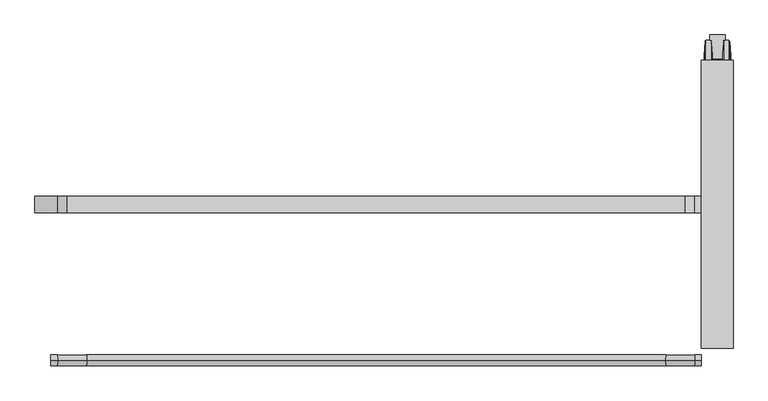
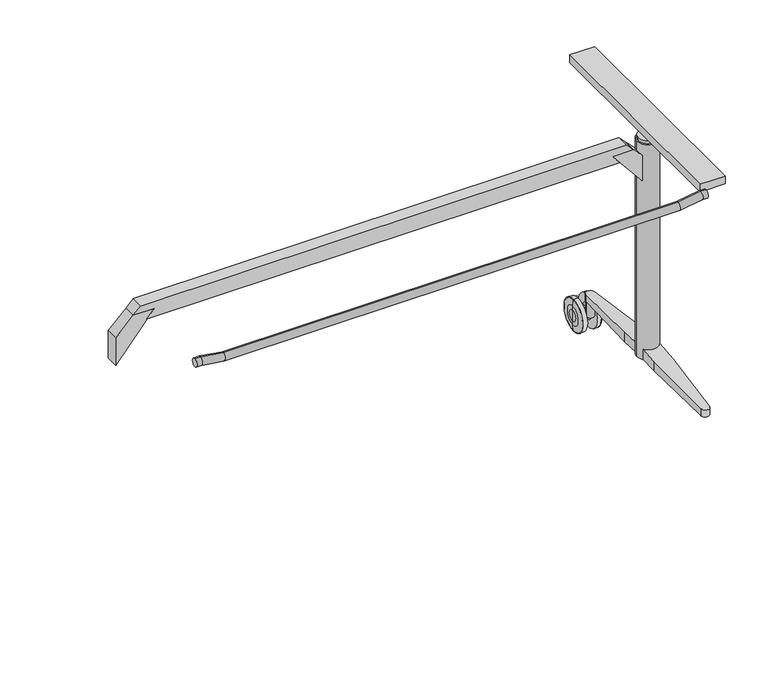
"""IFC4 building model written with IfcOpenShell, lengths in millimetres: furniture geometry, Table_Foldable_Wilkhahn_TimetableLift_Whiteboard : 1500w x 750d (615/10)."""

from ifc_helpers import new_model, si_unit, point, frame, frame_2d, origin, place, context, project, spatial, polyline, circle_curve, ellipse_curve, trimmed, segment, composite_curve, outline, extrude, source, transform, mapped, element, save
from ifc_brep_helpers import plane_surface, cylinder_surface, revolved_surface, advanced_brep


def furniture_e5408bf0(model_context):
    return source(origin(), model_context, "Body", "SolidModel", [
        advanced_brep(
        [(620.4530674, 395.9511544, 26.9613134), (620.4530674, 395.9511544, 53.0387194), (620.4530674, 395.9511544, 40.0000164), (622.5845915, 395.9511544, 0.8972162), (622.5845915, 395.9511544, 79.1028166), (621.0121742, 395.9511544, 63.8876748), (621.0121742, 395.9511544, 16.1123581), (633.5439759, 395.9511544, 1.43e-05), (633.5439759, 395.9511544, 80.0000185), (623.5792938, 395.9511544, 80.0000185), (623.5792938, 395.9511544, 1.43e-05), (635.4530966, 395.9511544, 20.9999281), (635.4530966, 395.9511544, 59.0001048), (635.4530966, 395.9511544, 32.3463502), (635.4530966, 395.9511544, 47.6536826), (655.3531174, 395.9511544, 32.3463502), (655.3531174, 395.9511544, 47.6536826), (655.3531174, 395.9511544, 20.9999281), (655.3531174, 395.9511544, 59.0001048), (657.2622381, 395.9511544, 1.43e-05), (657.2622381, 395.9511544, 80.0000185), (666.3249398, 395.9511544, 1.43e-05), (666.3249398, 395.9511544, 80.0000185), (669.7942336, 395.9511544, 16.1142331), (669.7942336, 395.9511544, 63.8857997), (668.3143443, 395.9511544, 78.2056147), (668.3143443, 395.9511544, 1.7944182), (670.3531466, 395.9511544, 40.0000164), (670.3531466, 395.9511544, 53.0406045), (670.3531466, 395.9511544, 26.9594284)],
        [
            (0, 1, circle_curve(frame((620.4530674, 395.9511544, 40.0000164), z_axis=(-1.0, 0.0, 0.0), x_axis=(0.0, 0.0, 1.0)), 13.038703)),
            (1, 2),
            (2, 0),
            (1, 0, circle_curve(frame((620.4530674, 395.9511544, 40.0000164), z_axis=(-1.0, 0.0, 0.0), x_axis=(0.0, 0.0, 1.0)), 13.038703)),
            (3, 4, circle_curve(frame((622.5845915, 395.9511544, 40.0000164), z_axis=(-1.0, 0.0, 0.0), x_axis=(0.0, 0.0, 1.0)), 39.1028002)),
            (4, 5),
            (5, 6, circle_curve(frame((621.0121742, 395.9511544, 40.0000164), z_axis=(1.0, 0.0, 0.0), x_axis=(0.0, 0.0, 1.0)), 23.8876584)),
            (6, 3),
            (4, 3, circle_curve(frame((622.5845915, 395.9511544, 40.0000164), z_axis=(-1.0, 0.0, 0.0), x_axis=(0.0, 0.0, 1.0)), 39.1028002)),
            (6, 5, circle_curve(frame((621.0121742, 395.9511544, 40.0000164), z_axis=(1.0, 0.0, 0.0), x_axis=(0.0, 0.0, 1.0)), 23.8876584)),
            (7, 8, circle_curve(frame((633.5439759, 395.9511544, 40.0000164), z_axis=(-1.0, 0.0, 0.0), x_axis=(0.0, 0.0, 1.0)), 40.0000021)),
            (8, 9),
            (9, 10, circle_curve(frame((623.5792938, 395.9511544, 40.0000164), z_axis=(1.0, 0.0, 0.0), x_axis=(0.0, 0.0, 1.0)), 40.0000021)),
            (10, 7),
            (8, 7, circle_curve(frame((633.5439759, 395.9511544, 40.0000164), z_axis=(-1.0, 0.0, 0.0), x_axis=(0.0, 0.0, 1.0)), 40.0000021)),
            (10, 9, circle_curve(frame((623.5792938, 395.9511544, 40.0000164), z_axis=(1.0, 0.0, 0.0), x_axis=(0.0, 0.0, 1.0)), 40.0000021)),
            (11, 12, circle_curve(frame((635.4530966, 395.9511544, 40.0000164), z_axis=(-1.0, 0.0, 0.0), x_axis=(0.0, 0.0, 1.0)), 19.0000883)),
            (12, 8),
            (7, 11),
            (12, 11, circle_curve(frame((635.4530966, 395.9511544, 40.0000164), z_axis=(-1.0, 0.0, 0.0), x_axis=(0.0, 0.0, 1.0)), 19.0000883)),
            (13, 14, circle_curve(frame((635.4530966, 395.9511544, 40.0000164), z_axis=(-1.0, 0.0, 0.0), x_axis=(0.0, 0.0, 1.0)), 7.6536662)),
            (14, 12),
            (11, 13),
            (14, 13, circle_curve(frame((635.4530966, 395.9511544, 40.0000164), z_axis=(-1.0, 0.0, 0.0), x_axis=(0.0, 0.0, 1.0)), 7.6536662)),
            (15, 16, circle_curve(frame((655.3531174, 395.9511544, 40.0000164), z_axis=(-1.0, 0.0, 0.0), x_axis=(0.0, 0.0, 1.0)), 7.6536662)),
            (16, 14),
            (13, 15),
            (16, 15, circle_curve(frame((655.3531174, 395.9511544, 40.0000164), z_axis=(-1.0, 0.0, 0.0), x_axis=(0.0, 0.0, 1.0)), 7.6536662)),
            (17, 18, circle_curve(frame((655.3531174, 395.9511544, 40.0000164), z_axis=(-1.0, 0.0, 0.0), x_axis=(0.0, 0.0, 1.0)), 19.0000883)),
            (18, 16),
            (15, 17),
            (18, 17, circle_curve(frame((655.3531174, 395.9511544, 40.0000164), z_axis=(-1.0, 0.0, 0.0), x_axis=(0.0, 0.0, 1.0)), 19.0000883)),
            (19, 20, circle_curve(frame((657.2622381, 395.9511544, 40.0000164), z_axis=(-1.0, 0.0, 0.0), x_axis=(0.0, 0.0, 1.0)), 40.0000021)),
            (20, 18),
            (17, 19),
            (20, 19, circle_curve(frame((657.2622381, 395.9511544, 40.0000164), z_axis=(-1.0, 0.0, 0.0), x_axis=(0.0, 0.0, 1.0)), 40.0000021)),
            (21, 22, circle_curve(frame((666.3249398, 395.9511544, 40.0000164), z_axis=(-1.0, 0.0, 0.0), x_axis=(0.0, 0.0, 1.0)), 40.0000021)),
            (22, 20),
            (19, 21),
            (22, 21, circle_curve(frame((666.3249398, 395.9511544, 40.0000164), z_axis=(-1.0, 0.0, 0.0), x_axis=(0.0, 0.0, 1.0)), 40.0000021)),
            (23, 24, circle_curve(frame((669.7942336, 395.9511544, 40.0000164), z_axis=(-1.0, 0.0, 0.0), x_axis=(0.0, 0.0, 1.0)), 23.8857833)),
            (24, 25),
            (25, 26, circle_curve(frame((668.3143443, 395.9511544, 40.0000164), z_axis=(1.0, 0.0, 0.0), x_axis=(0.0, 0.0, 1.0)), 38.2055982)),
            (26, 23),
            (24, 23, circle_curve(frame((669.7942336, 395.9511544, 40.0000164), z_axis=(-1.0, 0.0, 0.0), x_axis=(0.0, 0.0, 1.0)), 23.8857833)),
            (26, 25, circle_curve(frame((668.3143443, 395.9511544, 40.0000164), z_axis=(1.0, 0.0, 0.0), x_axis=(0.0, 0.0, 1.0)), 38.2055982)),
            (27, 28),
            (28, 29, circle_curve(frame((670.3531466, 395.9511544, 40.0000164), z_axis=(1.0, 0.0, 0.0), x_axis=(0.0, 0.0, 1.0)), 13.0405881)),
            (29, 27),
            (29, 28, circle_curve(frame((670.3531466, 395.9511544, 40.0000164), z_axis=(1.0, 0.0, 0.0), x_axis=(0.0, 0.0, 1.0)), 13.0405881)),
            (5, 1, circle_curve(frame((725.9896451, 395.9511544, 53.0387194), z_axis=(0.0, -1.0, 0.0), x_axis=(-1.0, 0.0, 0.0)), 105.5365777)),
            (0, 6, circle_curve(frame((725.9896451, 395.9511544, 26.9613134), z_axis=(0.0, -1.0, 0.0), x_axis=(-1.0, 0.0, 0.0)), 105.5365777)),
            (9, 4, circle_curve(frame((623.5792938, 395.9511544, 79.0000185), z_axis=(0.0, -1.0, 0.0), x_axis=(-1.0, 0.0, 0.0)), 1.0)),
            (3, 10, circle_curve(frame((623.5792938, 395.9511544, 1.0000143), z_axis=(0.0, -1.0, 0.0), x_axis=(-1.0, 0.0, 0.0)), 1.0)),
            (25, 22, circle_curve(frame((666.3249398, 395.9511544, 78.0000185), z_axis=(0.0, -1.0, 0.0), x_axis=(-1.0, 0.0, 0.0)), 2.0)),
            (21, 26, circle_curve(frame((666.3249398, 395.9511544, 2.0000143), z_axis=(0.0, -1.0, 0.0), x_axis=(-1.0, 0.0, 0.0)), 2.0)),
            (28, 24, circle_curve(frame((564.8531466, 395.9511544, 53.0406045), z_axis=(0.0, -1.0, 0.0), x_axis=(-1.0, 0.0, 0.0)), 105.5)),
            (23, 29, circle_curve(frame((564.8531466, 395.9511544, 26.9594284), z_axis=(0.0, -1.0, 0.0), x_axis=(-1.0, 0.0, 0.0)), 105.5)),
        ],
        [
            plane_surface(frame((620.4530674, 395.9511544, 40.0000164), z_axis=(-1.0, 0.0, 0.0), x_axis=(0.0, 0.0, 1.0))),
            revolved_surface(polyline([(621.0121742, 395.9511544, 63.8876748), (622.5845915, 395.9511544, 79.1028166)]), (686.1531192, 395.9511544, 40.0000164), (1.0, 0.0, 0.0)),
            cylinder_surface(frame((686.1531192, 395.9511544, 40.0000164), z_axis=(1.0, 0.0, 0.0), x_axis=(0.0, 0.0, 1.0)), 40.0000021),
            revolved_surface(polyline([(633.5439759, 395.9511544, 80.0000185), (635.4530966, 395.9511544, 59.0001048)]), (686.1531192, 395.9511544, 40.0000164), (1.0, 0.0, 0.0)),
            plane_surface(frame((635.4530966, 395.9511544, 40.0000164), z_axis=(1.0, 0.0, 0.0), x_axis=(0.0, 0.0, 1.0))),
            cylinder_surface(frame((686.1531192, 395.9511544, 40.0000164), z_axis=(1.0, 0.0, 0.0), x_axis=(0.0, 0.0, 1.0)), 7.6536662),
            plane_surface(frame((655.3531174, 395.9511544, 40.0000164), z_axis=(-1.0, 0.0, 0.0), x_axis=(0.0, 0.0, 1.0))),
            revolved_surface(polyline([(655.3531174, 395.9511544, 59.0001048), (657.2622381, 395.9511544, 80.0000185)]), (686.1531192, 395.9511544, 40.0000164), (1.0, 0.0, 0.0)),
            revolved_surface(polyline([(668.3143443, 395.9511544, 78.2056147), (669.7942336, 395.9511544, 63.8857997)]), (686.1531192, 395.9511544, 40.0000164), (1.0, 0.0, 0.0)),
            plane_surface(frame((670.3531466, 395.9511544, 40.0000164), z_axis=(1.0, 0.0, 0.0), x_axis=(0.0, 0.0, 1.0))),
            revolved_surface(trimmed(ellipse_curve(frame((725.9896451, 395.9511544, 53.0387194), z_axis=(0.0, 1.0, 0.0), x_axis=(-1.0, 0.0, 0.0)), 105.5365777, 105.5365777), [point((620.4530674, 395.9511544, 53.0387194))], [point((621.0121742, 395.9511544, 63.8876748))], True, "CARTESIAN"), (686.1531192, 395.9511544, 40.0000164), (1.0, 0.0, 0.0)),
            revolved_surface(trimmed(ellipse_curve(frame((623.5792938, 395.9511544, 79.0000185), z_axis=(0.0, 1.0, 0.0), x_axis=(-1.0, 0.0, 0.0)), 1.0, 1.0), [point((622.5845915, 395.9511544, 79.1028166))], [point((623.5792938, 395.9511544, 80.0000185))], True, "CARTESIAN"), (686.1531192, 395.9511544, 40.0000164), (1.0, 0.0, 0.0)),
            revolved_surface(trimmed(ellipse_curve(frame((666.3249398, 395.9511544, 78.0000185), z_axis=(0.0, 1.0, 0.0), x_axis=(-1.0, 0.0, 0.0)), 2.0, 2.0), [point((666.3249398, 395.9511544, 80.0000185))], [point((668.3143443, 395.9511544, 78.2056147))], True, "CARTESIAN"), (686.1531192, 395.9511544, 40.0000164), (1.0, 0.0, 0.0)),
            revolved_surface(trimmed(ellipse_curve(frame((564.8531466, 395.9511544, 53.0406045), z_axis=(0.0, 1.0, 0.0), x_axis=(-1.0, 0.0, 0.0)), 105.5, 105.5), [point((669.7942336, 395.9511544, 63.8857997))], [point((670.3531466, 395.9511544, 53.0406045))], True, "CARTESIAN"), (686.1531192, 395.9511544, 40.0000164), (1.0, 0.0, 0.0)),
        ],
        [
            (0, [[1, 2, 3]]),
            (0, [[4, -3, -2]]),
            (1, [[5, 6, 7, 8]]),
            (1, [[9, -8, 10, -6]]),
            (2, [[11, 12, 13, 14]]),
            (2, [[15, -14, 16, -12]]),
            (3, [[17, 18, -11, 19]]),
            (3, [[20, -19, -15, -18]]),
            (4, [[21, 22, -17, 23]]),
            (4, [[24, -23, -20, -22]]),
            (5, [[25, 26, -21, 27]]),
            (5, [[28, -27, -24, -26]]),
            (6, [[29, 30, -25, 31]]),
            (6, [[32, -31, -28, -30]]),
            (7, [[33, 34, -29, 35]]),
            (7, [[36, -35, -32, -34]]),
            (2, [[37, 38, -33, 39]]),
            (2, [[40, -39, -36, -38]]),
            (8, [[41, 42, 43, 44]]),
            (8, [[45, -44, 46, -42]]),
            (9, [[47, 48, 49]]),
            (9, [[-49, 50, -47]]),
            (10, [[-7, 51, -1, 52]]),
            (10, [[-10, -52, -4, -51]]),
            (11, [[-13, 53, -5, 54]]),
            (11, [[-16, -54, -9, -53]]),
            (12, [[-43, 55, -37, 56]]),
            (12, [[-46, -56, -40, -55]]),
            (13, [[-48, 57, -41, 58]]),
            (13, [[-50, -58, -45, -57]]),
        ],
    ),
        advanced_brep(
        [(665.0000252, 110.1174444, 100.5064747), (665.0000252, 110.1174444, 125.9916346), (665.0000252, 54.8340926, 121.3203113), (665.0000252, 54.8340926, 97.609197), (625.0000252, 110.1174444, 125.9916346), (625.0000252, 110.1174444, 100.5064747), (625.0000252, 65.6906566, 98.1781655), (625.0000252, 65.6906566, 122.2376674), (655.3504791, -113.0675149, 88.8098467), (635.2734538, -113.0675149, 88.8098467), (635.3284401, -114.0242798, 107.0521452), (655.2954923, -114.0242831, 107.0521449), (655.2954923, -114.0242831, 88.8098467), (635.3284401, -114.0242798, 88.8098467)],
        [
            (0, 1),
            (1, 2),
            (2, 3),
            (3, 0),
            (4, 5),
            (5, 6),
            (6, 7),
            (7, 4),
            (5, 0),
            (3, 8),
            (8, 9),
            (9, 6),
            (1, 4),
            (7, 10),
            (10, 11, ellipse_curve(frame((645.3119663, -113.4505156, 107.100627), z_axis=(0.0, -0.08419778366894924, 0.9964490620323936), x_axis=(0.0, -0.9964490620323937, -0.08419778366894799)), 10.0356359, 10.0)),
            (11, 2),
            (8, 12),
            (12, 13, circle_curve(frame((645.3119663, -113.4505156, 88.8098467), z_axis=(0.0, 0.0, -1.0), x_axis=(-1.0, 0.0, 0.0)), 10.0)),
            (13, 9),
            (13, 10),
            (12, 11),
        ],
        [
            plane_surface(frame((665.0000252, 110.1174444, 100.5064747), z_axis=(1.0, 0.0, 0.0), x_axis=(0.0, 0.998629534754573, 0.05233595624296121))),
            plane_surface(frame((625.0000252, 110.1174444, 100.5064747), z_axis=(-1.0, 0.0, 0.0), x_axis=(0.0, -0.998629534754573, -0.05233595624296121))),
            plane_surface(frame((665.0000252, -113.0675149, 88.8098467), z_axis=(0.0, 0.05233595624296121, -0.998629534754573), x_axis=(-1.0, 0.0, 0.0))),
            plane_surface(frame((665.0000252, 110.1174444, 125.9916346), z_axis=(0.0, -0.08419778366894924, 0.9964490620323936), x_axis=(-1.0, 0.0, 0.0))),
            plane_surface(frame((665.0000252, -124.5346363, 88.8098467), z_axis=(0.0, 0.0, -1.0), x_axis=(-1.0, 0.0, 0.0))),
            plane_surface(frame((635.3284401, -114.0242798, 234.8098558), z_axis=(-0.9983526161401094, -0.05737642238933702, 0.0), x_axis=(0.0, 0.0, -1.0))),
            cylinder_surface(frame((645.3119663, -113.4505156, -14.1901527), z_axis=(0.0, 0.0, -1.0), x_axis=(-1.0, 0.0, 0.0)), 10.0),
            plane_surface(frame((668.1772387, 110.1174444, 234.8098558), z_axis=(0.998352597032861, -0.0573767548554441, 0.0), x_axis=(0.0, 0.0, -1.0))),
            plane_surface(frame((665.0000252, 110.1174444, 100.5064747), z_axis=(0.0, 1.0, 0.0), x_axis=(-1.0, 0.0, 0.0))),
        ],
        [
            (0, [[1, 2, 3, 4]]),
            (1, [[5, 6, 7, 8]]),
            (2, [[9, -4, 10, 11, 12, -6]]),
            (3, [[13, -8, 14, 15, 16, -2]]),
            (4, [[-11, 17, 18, 19]]),
            (5, [[20, -14, -7, -12, -19]]),
            (6, [[-20, -18, 21, -15]]),
            (7, [[-21, -17, -10, -3, -16]]),
            (8, [[-1, -9, -5, -13]]),
        ],
    ),
        advanced_brep(
        [(665.0000252, 141.7848644, 125.5064747), (665.0000252, 141.7848644, 100.5064747), (665.0000252, 197.0682163, 97.609197), (665.0000252, 197.0682163, 120.8815538), (625.0000252, 141.7848644, 100.5064747), (625.0000252, 141.7848644, 125.5064747), (625.0000252, 186.2116523, 121.7897974), (625.0000252, 186.2116523, 98.1781655), (635.2734538, 364.9698238, 88.8098467), (655.3504791, 364.9698238, 88.8098467), (655.2954923, 365.926592, 106.7551193), (635.3284401, 365.9265887, 106.7551196), (635.3284401, 365.9265887, 88.8098467), (655.2954923, 365.926592, 88.8098467)],
        [
            (0, 1),
            (1, 2),
            (2, 3),
            (3, 0),
            (4, 5),
            (5, 6),
            (6, 7),
            (7, 4),
            (1, 4),
            (7, 8),
            (8, 9),
            (9, 2),
            (0, 5),
            (3, 10),
            (10, 11, ellipse_curve(frame((645.3119663, 365.3528245, 106.8031198), z_axis=(0.0, 0.08336725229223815, 0.9965188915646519), x_axis=(0.0, 0.9965188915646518, -0.08336725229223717)), 10.0349327, 10.0)),
            (11, 6),
            (8, 12),
            (12, 13, circle_curve(frame((645.3119663, 365.3528245, 88.8098467), z_axis=(0.0, 0.0, -1.0), x_axis=(-1.0, 0.0, 0.0)), 10.0)),
            (13, 9),
            (11, 12),
            (10, 13),
        ],
        [
            plane_surface(frame((665.0000252, 110.1174444, 100.5064747), z_axis=(1.0, 0.0, 0.0), x_axis=(0.0, 0.998629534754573, 0.05233595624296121))),
            plane_surface(frame((625.0000252, 110.1174444, 100.5064747), z_axis=(-1.0, 0.0, 0.0), x_axis=(0.0, -0.998629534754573, -0.05233595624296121))),
            plane_surface(frame((665.0000252, 141.7848644, 100.5064747), z_axis=(0.0, -0.05233595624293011, -0.9986295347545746), x_axis=(-1.0, 0.0, 0.0))),
            plane_surface(frame((665.0000252, 141.7848644, 125.5064747), z_axis=(0.0, -1.0, 0.0), x_axis=(-1.0, 0.0, 0.0))),
            plane_surface(frame((665.0000252, 376.4369452, 105.8758392), z_axis=(0.0, 0.08336725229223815, 0.9965188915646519), x_axis=(-1.0, 0.0, 0.0))),
            plane_surface(frame((665.0000252, 364.9698238, 88.8098467), z_axis=(0.0, 0.0, -1.0), x_axis=(-1.0, 0.0, 0.0))),
            plane_surface(frame((622.5013837, 142.7351655, 234.8098558), z_axis=(-0.998352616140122, 0.05737642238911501, 0.0), x_axis=(0.0, 0.0, -1.0))),
            cylinder_surface(frame((645.3119663, 365.3528245, -14.1901527), z_axis=(0.0, 0.0, -1.0), x_axis=(-1.0, 0.0, 0.0)), 10.0),
            plane_surface(frame((655.2954923, 365.926592, 234.8098558), z_axis=(0.9983525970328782, 0.05737675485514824, 0.0), x_axis=(0.0, 0.0, -1.0))),
        ],
        [
            (0, [[1, 2, 3, 4]]),
            (1, [[5, 6, 7, 8]]),
            (2, [[9, -8, 10, 11, 12, -2]]),
            (3, [[-1, 13, -5, -9]]),
            (4, [[-13, -4, 14, 15, 16, -6]]),
            (5, [[-11, 17, 18, 19]]),
            (6, [[20, -17, -10, -7, -16]]),
            (7, [[-20, -15, 21, -18]]),
            (8, [[-21, -14, -3, -12, -19]]),
        ],
    ),
        extrude(outline(composite_curve([segment(trimmed(circle_curve(frame_2d((645.0000252, 125.9511544)), 22.0748856), [point((667.0749108, 125.9511544))], [point((622.9251395, 125.9511544))], False, "CARTESIAN"), True, "CONTINUOUS"), segment(trimmed(circle_curve(frame_2d((645.0000252, 125.9511544)), 22.0748856), [point((622.9251395, 125.9511544))], [point((667.0749108, 125.9511544))], False, "CARTESIAN"), True, "CONTINUOUS")], self_intersect=False)), frame((0.0, 0.0, 648.5142032), z_axis=(0.0, 0.0, 1.0), x_axis=(1.0, 0.0, 0.0)), (0.0, 0.0, 1.0), 7.7231854),
        extrude(outline(polyline([(46.8012701, 659.9796901), (46.8012701, 630.8589951), (33.7579803, 633.5602115), (33.7579803, 657.2784737), (46.8012701, 659.9796901)])), frame((0.0, 395.9511544, 0.0), z_axis=(0.0, 1.0, 0.0), x_axis=(0.0, 0.0, 1.0)), (0.0, 0.0, 1.0), 50.0),
        extrude(outline(composite_curve([segment(trimmed(circle_curve(frame_2d((645.0000252, 125.9511544)), 21.8066495), [point((666.8066747, 125.9511544))], [point((623.1933756, 125.9511544))], False, "CARTESIAN"), True, "CONTINUOUS"), segment(trimmed(circle_curve(frame_2d((645.0000252, 125.9511544)), 21.8066495), [point((623.1933756, 125.9511544))], [point((666.8066747, 125.9511544))], False, "CARTESIAN"), True, "CONTINUOUS")], self_intersect=False)), frame((0.0, 0.0, 672.2302641), z_axis=(0.0, 0.0, 1.0), x_axis=(1.0, 0.0, 0.0)), (0.0, 0.0, 1.0), 12.7697121),
        extrude(outline(composite_curve([segment(trimmed(circle_curve(frame_2d((645.5388896, 365.7419216)), 9.5), [point((655.0388896, 365.7419216))], [point((636.0388896, 365.7419216))], False, "CARTESIAN"), True, "CONTINUOUS"), segment(trimmed(circle_curve(frame_2d((645.5388896, 365.7419216)), 9.5), [point((636.0388896, 365.7419216))], [point((655.0388896, 365.7419216))], False, "CARTESIAN"), True, "CONTINUOUS")], self_intersect=False)), frame((0.0, 0.0, 50.0000143), z_axis=(0.0, 0.0, 1.0), x_axis=(1.0, 0.0, 0.0)), (0.0, 0.0, 1.0), 38.8098324),
        extrude(outline(composite_curve([segment(trimmed(circle_curve(frame_2d((645.0, 125.9511544)), 26.0), [point((671.0, 125.9511544))], [point((619.0, 125.9511544))], False, "CARTESIAN"), True, "CONTINUOUS"), segment(trimmed(circle_curve(frame_2d((645.0, 125.9511544)), 26.0), [point((619.0, 125.9511544))], [point((671.0, 125.9511544))], False, "CARTESIAN"), True, "CONTINUOUS")], self_intersect=False)), frame((0.0, 0.0, 100.2652558), z_axis=(0.0, 0.0, 1.0), x_axis=(1.0, 0.0, 0.0)), (0.0, 0.0, 1.0), 548.2489474),
        extrude(outline(polyline([(659.9544603, -584.0633969), (642.2767908, -601.7410664), (642.2767908, -551.7410664), (621.0635874, -569.2634425), (621.0635874, 569.2634425), (642.2767908, 551.7410664), (642.2767908, 601.7410664), (659.9544603, 584.0633969), (659.9544603, -584.0633969)])), frame((0.0, 109.7857178, 0.0), z_axis=(0.0, 1.0, 0.0), x_axis=(0.0, 0.0, 1.0)), (0.0, 0.0, 1.0), 31.1654367),
        extrude(outline(polyline([(599.7944959, 644.2233613), (642.2767908, 601.7410664), (642.2767908, 551.7410664), (530.3144788, 644.2233613), (599.7944959, 644.2233613)])), frame((0.0, 109.7857178, 0.0), z_axis=(0.0, 1.0, 0.0), x_axis=(0.0, 0.0, 1.0)), (0.0, 0.0, 1.0), 31.1654367),
        extrude(outline(polyline([(599.0178177, -645.0000395), (529.3742049, -645.0000395), (642.2767908, -551.7410664), (642.2767908, -601.7410664), (599.0178177, -645.0000395)])), frame((0.0, 109.7857178, 0.0), z_axis=(0.0, 1.0, 0.0), x_axis=(0.0, 0.0, 1.0)), (0.0, 0.0, 1.0), 31.1654367),
        extrude(outline(polyline([(615.0000395, 397.9511544), (675.0000109, 397.9511544), (675.0000109, -146.0488456), (615.0000395, -146.0488456), (615.0000395, 397.9511544)])), frame((0.0, 0.0, 684.9999762), z_axis=(0.0, 0.0, 1.0), x_axis=(1.0, 0.0, 0.0)), (0.0, 0.0, 1.0), 20.0000238),
        advanced_brep(
        [(-615.0000395, -169.1884095, 705.4672388), (-615.0000395, -169.1884095, 685.4672388), (615.0000395, -169.1884095, 705.4672388), (615.0000395, -169.1884095, 685.4672388), (-602.0892263, -169.1884095, 705.4672388), (-603.5361626, -169.1884095, 685.4672388), (-547.0892404, -169.1884095, 697.4672184), (-548.5361767, -169.1884095, 677.4672184), (547.089229, -169.1884095, 697.4672184), (548.5361653, -169.1884095, 677.4672184), (602.0892149, -169.1884095, 705.4672388), (603.5361512, -169.1884095, 685.4672388)],
        [
            (0, 1, circle_curve(frame((-615.0000395, -169.1884095, 695.4672388), z_axis=(-1.0, 0.0, 0.0), x_axis=(0.0, 0.0, -1.0)), 10.0)),
            (1, 0, circle_curve(frame((-615.0000395, -169.1884095, 695.4672388), z_axis=(-1.0, 0.0, 0.0), x_axis=(0.0, 0.0, -1.0)), 10.0)),
            (2, 3, circle_curve(frame((615.0000395, -169.1884095, 695.4672388), z_axis=(1.0, 0.0, 0.0), x_axis=(0.0, 0.0, -1.0)), 10.0)),
            (3, 2, circle_curve(frame((615.0000395, -169.1884095, 695.4672388), z_axis=(1.0, 0.0, 0.0), x_axis=(0.0, 0.0, -1.0)), 10.0)),
            (0, 4),
            (4, 5, ellipse_curve(frame((-602.8126945, -169.1884095, 695.4672388), z_axis=(-0.9973931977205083, 0.0, 0.07215822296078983), x_axis=(-0.07215822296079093, 0.0, -0.997393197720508)), 10.0261362, 10.0)),
            (5, 1),
            (5, 4, ellipse_curve(frame((-602.8126945, -169.1884095, 695.4672388), z_axis=(-0.9973931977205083, 0.0, 0.07215822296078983), x_axis=(-0.07215822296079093, 0.0, -0.997393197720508)), 10.0261362, 10.0)),
            (4, 6),
            (6, 7, ellipse_curve(frame((-547.8127086, -169.1884095, 687.4672184), z_axis=(-0.9973931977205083, 0.0, 0.07215822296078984), x_axis=(0.07215822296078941, 0.0, 0.9973931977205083)), 10.0261362, 10.0)),
            (7, 5),
            (7, 6, ellipse_curve(frame((-547.8127086, -169.1884095, 687.4672184), z_axis=(-0.9973931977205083, 0.0, 0.07215822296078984), x_axis=(0.07215822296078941, 0.0, 0.9973931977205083)), 10.0261362, 10.0)),
            (6, 8),
            (8, 9, ellipse_curve(frame((547.8126971, -169.1884095, 687.4672184), z_axis=(-0.997393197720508, 0.0, -0.07215822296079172), x_axis=(-0.07215822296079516, 0.0, 0.9973931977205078)), 10.0261362, 10.0)),
            (9, 7),
            (9, 8, ellipse_curve(frame((547.8126971, -169.1884095, 687.4672184), z_axis=(-0.997393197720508, 0.0, -0.07215822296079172), x_axis=(-0.07215822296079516, 0.0, 0.9973931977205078)), 10.0261362, 10.0)),
            (8, 10),
            (10, 11, ellipse_curve(frame((602.812683, -169.1884095, 695.4672388), z_axis=(-0.997393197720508, 0.0, -0.0721582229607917), x_axis=(0.07215822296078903, 0.0, -0.9973931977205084)), 10.0261362, 10.0)),
            (11, 9),
            (11, 10, ellipse_curve(frame((602.812683, -169.1884095, 695.4672388), z_axis=(-0.997393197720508, 0.0, -0.0721582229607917), x_axis=(0.07215822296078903, 0.0, -0.9973931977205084)), 10.0261362, 10.0)),
            (10, 2),
            (3, 11),
        ],
        [
            plane_surface(frame((-615.0000395, -249.0488456, 665.2336856), z_axis=(-1.0, 0.0, 0.0), x_axis=(0.0, 1.0, 0.0))),
            plane_surface(frame((615.0000395, -249.0488456, 665.2336856), z_axis=(1.0, 0.0, 0.0), x_axis=(0.0, 1.0, 0.0))),
            cylinder_surface(frame((-615.0000395, -169.1884095, 695.4672388), z_axis=(-1.0, 0.0, 0.0), x_axis=(0.0, 0.0, -1.0)), 10.0),
            cylinder_surface(frame((-600.6481708, -169.1884095, 695.1523982), z_axis=(-0.989586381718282, 0.0, 0.14394024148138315), x_axis=(-0.14394024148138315, 0.0, -0.989586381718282)), 10.0),
            cylinder_surface(frame((-550.0000099, -169.1884095, 687.4672184), z_axis=(-1.0, 0.0, 0.0), x_axis=(0.0, 0.0, -1.0)), 10.0),
            cylinder_surface(frame((545.6481735, -169.1884095, 687.1523777), z_axis=(-0.9895863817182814, 0.0, -0.14394024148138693), x_axis=(0.14394024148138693, 0.0, -0.9895863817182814)), 10.0),
            cylinder_surface(frame((604.9999844, -169.1884095, 695.4672388), z_axis=(-1.0, 0.0, 0.0), x_axis=(0.0, 0.0, -1.0)), 10.0),
        ],
        [
            (0, [[1, 2]]),
            (1, [[3, 4]]),
            (2, [[-1, 5, 6, 7]]),
            (2, [[-2, -7, 8, -5]]),
            (3, [[-6, 9, 10, 11]]),
            (3, [[-8, -11, 12, -9]]),
            (4, [[-10, 13, 14, 15]]),
            (4, [[-12, -15, 16, -13]]),
            (5, [[-14, 17, 18, 19]]),
            (5, [[-16, -19, 20, -17]]),
            (6, [[-18, 21, -4, 22]]),
            (6, [[-20, -22, -3, -21]]),
        ],
    ),
    ])


if __name__ == "__main__":
    model = new_model("IFC4")
    model_context = context("Model", 3, world=origin())
    ifc_project = project(units=[si_unit("LENGTHUNIT", "METRE", prefix="MILLI")], contexts=[model_context])
    site = spatial("IfcSite", under=ifc_project)
    building = spatial("IfcBuilding", under=site)
    placement = place(None, origin())
    furniture_shape = furniture_e5408bf0(model_context)
    element("IfcFurniture", 1, ObjectType="Table_Foldable_Wilkhahn_TimetableLift_Whiteboard : 1500w x 750d (615/10)", at=placement, inside=building, context=model_context, shape_type="MappedRepresentation", body=[
        mapped(furniture_shape, transform((0.0, 0.0, 0.0), x_axis=(1.0, 0.0, 0.0), y_axis=(0.0, 1.0, 0.0), z_axis=(0.0, 0.0, 1.0))),
    ])
    save(model, "model.ifc")
